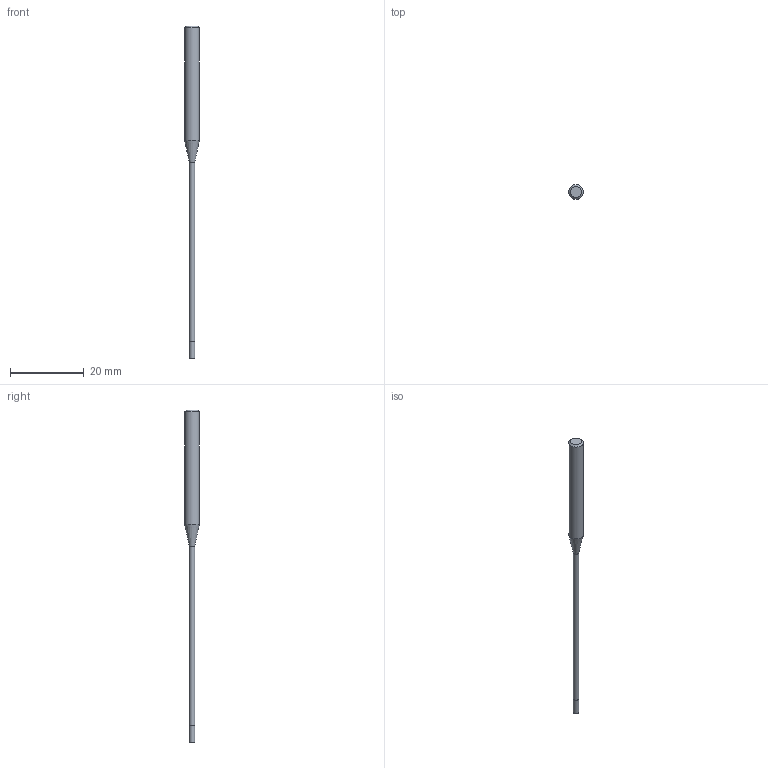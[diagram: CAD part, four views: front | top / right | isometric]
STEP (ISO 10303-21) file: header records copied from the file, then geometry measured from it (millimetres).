
FILE_DESCRIPTION((''),'2;1');
FILE_NAME('C:\Users\nsx150\Desktop\RSE230_20210427\01-00644-01553 RSE230 D1_5X4_5X53.step','2021-05-07T14:53:35',(''),(''),'STEP Write','Mastercam 2021 ... CNC Software, Inc.','');
FILE_SCHEMA(('AUTOMOTIVE_DESIGN'));
Length unit declared in the file: millimetre
Products named in the file (1): None
Bounding box: 4 x 4 x 90 mm (x, y, z)
Volume: 513.7 mm3; surface area: 698 mm2
Topology: 2 solids, 2 shells, 9 faces, 12 edges, 7 vertices
Faces by surface type: plane 4, cylinder 3, cone 2
Full cylindrical faces by diameter (mm): 1.45 x1, 1.5 x1, 4 x1
Entity records: 211 total; most frequent: DIRECTION 36, CARTESIAN_POINT 25, AXIS2_PLACEMENT_3D 18, ORIENTED_EDGE 14, EDGE_LOOP 14, STYLED_ITEM 12, ADVANCED_FACE 9, FACE_BOUND 8
